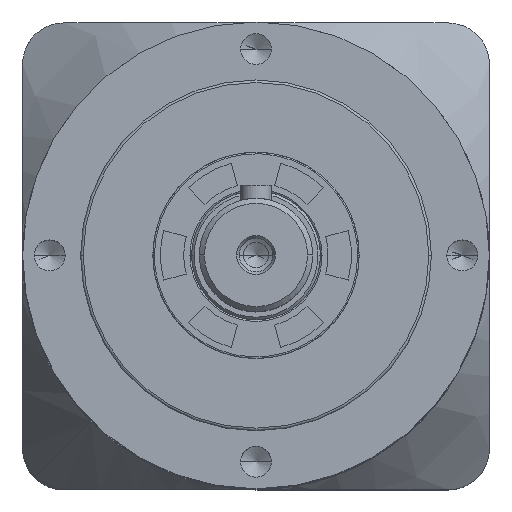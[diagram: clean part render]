
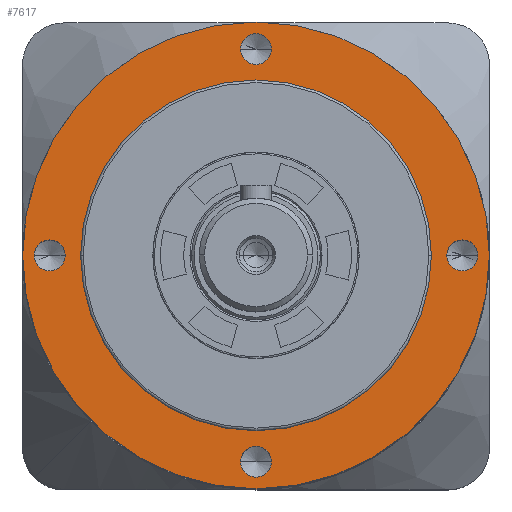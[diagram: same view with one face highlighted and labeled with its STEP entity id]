
A CAD part, top view. The second image highlights one B-rep face of the part: STEP entity #7617.
In plain terms, the highlighted planar face has unit normal (0, 0, 1).
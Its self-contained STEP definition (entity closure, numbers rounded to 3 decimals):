
#413 = EDGE_LOOP ( 'NONE', ( #9052, #28788 ) ) ;
#472 = DIRECTION ( 'NONE',  ( 0., 0., 1. ) ) ;
#529 = DIRECTION ( 'NONE',  ( 1., 0., 0. ) ) ;
#571 = FACE_OUTER_BOUND ( 'NONE', #25081, .T. ) ;
#596 = EDGE_CURVE ( 'NONE', #4656, #24024, #18833, .T. ) ;
#829 = CARTESIAN_POINT ( 'NONE',  ( 37., 0., 18.1 ) ) ;
#844 = EDGE_CURVE ( 'NONE', #18343, #29738, #13324, .T. ) ;
#1198 = CARTESIAN_POINT ( 'NONE',  ( 40., 0., 18.1 ) ) ;
#1397 = ORIENTED_EDGE ( 'NONE', *, *, #28377, .F. ) ;
#1666 = ORIENTED_EDGE ( 'NONE', *, *, #844, .F. ) ;
#1682 = ORIENTED_EDGE ( 'NONE', *, *, #18213, .F. ) ;
#1892 = DIRECTION ( 'NONE',  ( 1., 0., 0. ) ) ;
#2290 = EDGE_LOOP ( 'NONE', ( #1682, #14872 ) ) ;
#2452 = DIRECTION ( 'NONE',  ( 0., 0., 1. ) ) ;
#2499 = DIRECTION ( 'NONE',  ( 0., 0., 1. ) ) ;
#2831 = DIRECTION ( 'NONE',  ( 1., 0., 0. ) ) ;
#2862 = AXIS2_PLACEMENT_3D ( 'NONE', #21262, #2499, #14577 ) ;
#2998 = CIRCLE ( 'NONE', #24672, 3. ) ;
#3274 = EDGE_CURVE ( 'NONE', #14211, #8524, #22053, .T. ) ;
#3776 = EDGE_CURVE ( 'NONE', #24024, #4656, #5477, .T. ) ;
#4095 = DIRECTION ( 'NONE',  ( 0., 0., 1. ) ) ;
#4239 = FACE_BOUND ( 'NONE', #17426, .T. ) ;
#4388 = DIRECTION ( 'NONE',  ( 0., 0., 1. ) ) ;
#4610 = ORIENTED_EDGE ( 'NONE', *, *, #3274, .F. ) ;
#4656 = VERTEX_POINT ( 'NONE', #18993 ) ;
#5356 = AXIS2_PLACEMENT_3D ( 'NONE', #23007, #15715, #1892 ) ;
#5477 = CIRCLE ( 'NONE', #2862, 3. ) ;
#5508 = DIRECTION ( 'NONE',  ( 1., 0., 0. ) ) ;
#5847 = EDGE_LOOP ( 'NONE', ( #13405, #4610 ) ) ;
#6235 = EDGE_CURVE ( 'NONE', #24175, #8586, #12800, .T. ) ;
#6350 = CARTESIAN_POINT ( 'NONE',  ( -40., 0., 18.1 ) ) ;
#6704 = CARTESIAN_POINT ( 'NONE',  ( 0., 0., 18.1 ) ) ;
#6909 = CARTESIAN_POINT ( 'NONE',  ( 34., 0., 18.1 ) ) ;
#6931 = EDGE_LOOP ( 'NONE', ( #19792, #1666 ) ) ;
#7617 = ADVANCED_FACE ( 'NONE', ( #14234, #8680, #28915, #23411, #4239, #571 ), #8930, .T. ) ;
#7985 = DIRECTION ( 'NONE',  ( 0., 0., 1. ) ) ;
#8440 = AXIS2_PLACEMENT_3D ( 'NONE', #16439, #4388, #16234 ) ;
#8467 = ORIENTED_EDGE ( 'NONE', *, *, #27584, .T. ) ;
#8524 = VERTEX_POINT ( 'NONE', #26465 ) ;
#8586 = VERTEX_POINT ( 'NONE', #30278 ) ;
#8617 = CARTESIAN_POINT ( 'NONE',  ( -40., 0., 18.1 ) ) ;
#8680 = FACE_BOUND ( 'NONE', #2290, .T. ) ;
#8930 = PLANE ( 'NONE',  #10230 ) ;
#9032 = AXIS2_PLACEMENT_3D ( 'NONE', #1198, #24950, #17875 ) ;
#9052 = ORIENTED_EDGE ( 'NONE', *, *, #596, .F. ) ;
#9357 = DIRECTION ( 'NONE',  ( 1., 0., 0. ) ) ;
#9578 = AXIS2_PLACEMENT_3D ( 'NONE', #26779, #17441, #24520 ) ;
#10230 = AXIS2_PLACEMENT_3D ( 'NONE', #11707, #28143, #23229 ) ;
#10709 = DIRECTION ( 'NONE',  ( 1., 0., 0. ) ) ;
#11086 = DIRECTION ( 'NONE',  ( 0., 0., 1. ) ) ;
#11433 = CIRCLE ( 'NONE', #29277, 34. ) ;
#11707 = CARTESIAN_POINT ( 'NONE',  ( 0., 0., 18.1 ) ) ;
#11760 = VERTEX_POINT ( 'NONE', #6909 ) ;
#12800 = CIRCLE ( 'NONE', #15147, 3. ) ;
#12826 = CARTESIAN_POINT ( 'NONE',  ( -43., 0., 18.1 ) ) ;
#13324 = CIRCLE ( 'NONE', #8440, 3. ) ;
#13405 = ORIENTED_EDGE ( 'NONE', *, *, #22986, .F. ) ;
#13467 = DIRECTION ( 'NONE',  ( 0., 0., 1. ) ) ;
#13693 = AXIS2_PLACEMENT_3D ( 'NONE', #28699, #26540, #529 ) ;
#14051 = CIRCLE ( 'NONE', #24522, 45.25 ) ;
#14132 = CIRCLE ( 'NONE', #5356, 3. ) ;
#14211 = VERTEX_POINT ( 'NONE', #12826 ) ;
#14234 = FACE_BOUND ( 'NONE', #413, .T. ) ;
#14577 = DIRECTION ( 'NONE',  ( 1., 0., 0. ) ) ;
#14872 = ORIENTED_EDGE ( 'NONE', *, *, #6235, .F. ) ;
#15047 = EDGE_CURVE ( 'NONE', #29217, #24055, #23965, .T. ) ;
#15147 = AXIS2_PLACEMENT_3D ( 'NONE', #28549, #472, #2831 ) ;
#15715 = DIRECTION ( 'NONE',  ( 0., 0., 1. ) ) ;
#15893 = CIRCLE ( 'NONE', #13693, 34. ) ;
#16234 = DIRECTION ( 'NONE',  ( 1., 0., 0. ) ) ;
#16439 = CARTESIAN_POINT ( 'NONE',  ( 0., 40., 18.1 ) ) ;
#17426 = EDGE_LOOP ( 'NONE', ( #28091, #1397 ) ) ;
#17441 = DIRECTION ( 'NONE',  ( 0., 0., 1. ) ) ;
#17505 = CARTESIAN_POINT ( 'NONE',  ( -3., -40., 18.1 ) ) ;
#17875 = DIRECTION ( 'NONE',  ( 1., 0., 0. ) ) ;
#18213 = EDGE_CURVE ( 'NONE', #8586, #24175, #20984, .T. ) ;
#18232 = CARTESIAN_POINT ( 'NONE',  ( 0., 0., 18.1 ) ) ;
#18343 = VERTEX_POINT ( 'NONE', #22085 ) ;
#18495 = CARTESIAN_POINT ( 'NONE',  ( -45.25, 0., 18.1 ) ) ;
#18672 = AXIS2_PLACEMENT_3D ( 'NONE', #6350, #13467, #27613 ) ;
#18833 = CIRCLE ( 'NONE', #9032, 3. ) ;
#18993 = CARTESIAN_POINT ( 'NONE',  ( 43., 0., 18.1 ) ) ;
#19698 = CARTESIAN_POINT ( 'NONE',  ( 45.25, 0., 18.1 ) ) ;
#19792 = ORIENTED_EDGE ( 'NONE', *, *, #21865, .F. ) ;
#20145 = VERTEX_POINT ( 'NONE', #28087 ) ;
#20984 = CIRCLE ( 'NONE', #23667, 3. ) ;
#21262 = CARTESIAN_POINT ( 'NONE',  ( 40., 0., 18.1 ) ) ;
#21865 = EDGE_CURVE ( 'NONE', #29738, #18343, #14132, .T. ) ;
#22053 = CIRCLE ( 'NONE', #18672, 3. ) ;
#22085 = CARTESIAN_POINT ( 'NONE',  ( -3., 40., 18.1 ) ) ;
#22986 = EDGE_CURVE ( 'NONE', #8524, #14211, #2998, .T. ) ;
#23007 = CARTESIAN_POINT ( 'NONE',  ( 0., 40., 18.1 ) ) ;
#23122 = DIRECTION ( 'NONE',  ( 1., 0., 0. ) ) ;
#23229 = DIRECTION ( 'NONE',  ( 1., 0., 0. ) ) ;
#23411 = FACE_BOUND ( 'NONE', #6931, .T. ) ;
#23667 = AXIS2_PLACEMENT_3D ( 'NONE', #24425, #7985, #5508 ) ;
#23965 = CIRCLE ( 'NONE', #9578, 45.25 ) ;
#24024 = VERTEX_POINT ( 'NONE', #829 ) ;
#24055 = VERTEX_POINT ( 'NONE', #19698 ) ;
#24082 = EDGE_CURVE ( 'NONE', #20145, #11760, #15893, .T. ) ;
#24175 = VERTEX_POINT ( 'NONE', #17505 ) ;
#24220 = CARTESIAN_POINT ( 'NONE',  ( 3., 40., 18.1 ) ) ;
#24425 = CARTESIAN_POINT ( 'NONE',  ( 0., -40., 18.1 ) ) ;
#24520 = DIRECTION ( 'NONE',  ( 1., 0., 0. ) ) ;
#24522 = AXIS2_PLACEMENT_3D ( 'NONE', #18232, #4095, #10709 ) ;
#24672 = AXIS2_PLACEMENT_3D ( 'NONE', #8617, #11086, #23122 ) ;
#24950 = DIRECTION ( 'NONE',  ( 0., 0., 1. ) ) ;
#25081 = EDGE_LOOP ( 'NONE', ( #8467, #29179 ) ) ;
#26465 = CARTESIAN_POINT ( 'NONE',  ( -37., 0., 18.1 ) ) ;
#26540 = DIRECTION ( 'NONE',  ( 0., 0., 1. ) ) ;
#26779 = CARTESIAN_POINT ( 'NONE',  ( 0., 0., 18.1 ) ) ;
#27584 = EDGE_CURVE ( 'NONE', #24055, #29217, #14051, .T. ) ;
#27613 = DIRECTION ( 'NONE',  ( 1., 0., 0. ) ) ;
#28087 = CARTESIAN_POINT ( 'NONE',  ( -34., 0., 18.1 ) ) ;
#28091 = ORIENTED_EDGE ( 'NONE', *, *, #24082, .F. ) ;
#28143 = DIRECTION ( 'NONE',  ( 0., 0., 1. ) ) ;
#28377 = EDGE_CURVE ( 'NONE', #11760, #20145, #11433, .T. ) ;
#28549 = CARTESIAN_POINT ( 'NONE',  ( 0., -40., 18.1 ) ) ;
#28699 = CARTESIAN_POINT ( 'NONE',  ( 0., 0., 18.1 ) ) ;
#28788 = ORIENTED_EDGE ( 'NONE', *, *, #3776, .F. ) ;
#28915 = FACE_BOUND ( 'NONE', #5847, .T. ) ;
#29179 = ORIENTED_EDGE ( 'NONE', *, *, #15047, .T. ) ;
#29217 = VERTEX_POINT ( 'NONE', #18495 ) ;
#29277 = AXIS2_PLACEMENT_3D ( 'NONE', #6704, #2452, #9357 ) ;
#29738 = VERTEX_POINT ( 'NONE', #24220 ) ;
#30278 = CARTESIAN_POINT ( 'NONE',  ( 3., -40., 18.1 ) ) ;
